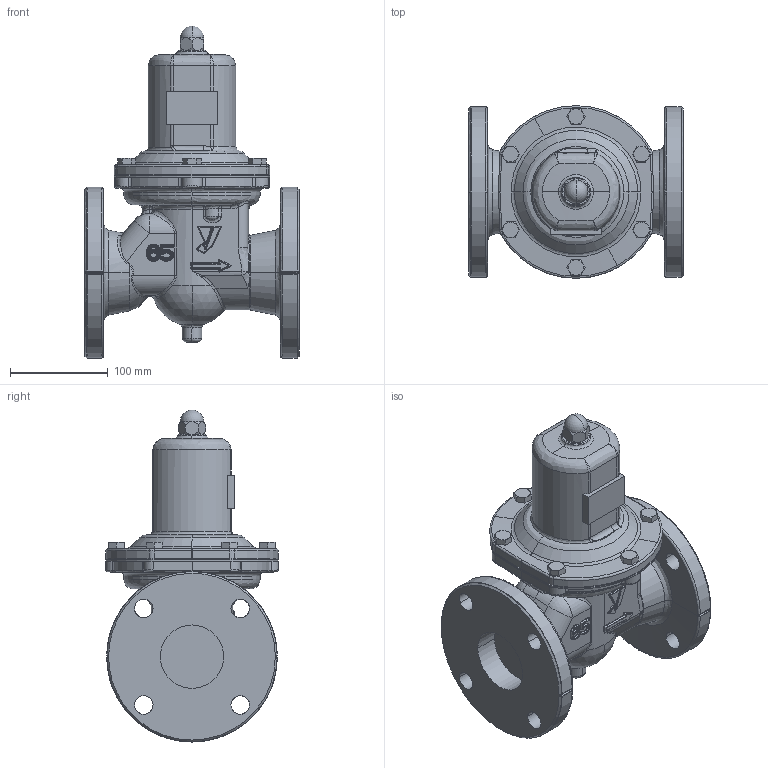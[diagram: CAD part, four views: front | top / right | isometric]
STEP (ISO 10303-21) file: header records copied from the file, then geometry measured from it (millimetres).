
FILE_DESCRIPTION( (''), '2;1');
FILE_NAME ('PC1027.4860.GD-27-NE 65A_22734.stp','2025-07-25T17:13:51',(''),(''),'spGate 19.8.4 (****-****-****-****)','','');
FILE_SCHEMA (('AUTOMOTIVE_DESIGN'));
Length unit declared in the file: millimetre
Products named in the file (6): Assembly; GD-27_65A_弁箱; 保護筒 65-80A; GD-27-NE 65A_M1; 四角プラグ R1／8; GD-27-NE 65A_M2
Assembly tree (10 placements, depth 2):
  Assembly
    GD-27_65A_弁箱
    保護筒 65-80A
    GD-27-NE 65A_M1
    四角プラグ R1／8
    GD-27-NE 65A_M2  x6
Bounding box: 220 x 177 x 340.5 mm (x, y, z)
Volume: 2929295.5 mm3; surface area: 383332.7 mm2
Topology: 10 solids, 10 shells, 813 faces, 1951 edges, 1112 vertices
Faces by surface type: bspline 370, cylinder 229, plane 165, sphere 49
Entity records: 62345 total; most frequent: CARTESIAN_POINT 35062, ORIENTED_EDGE 3272, DIRECTION 2527, COLOUR_RGB 2334, PRESENTATION_STYLE_ASSIGNMENT 2334, STYLED_ITEM 2334, EDGE_CURVE 1636, DRAUGHTING_PRE_DEFINED_CURVE_FONT 1636
